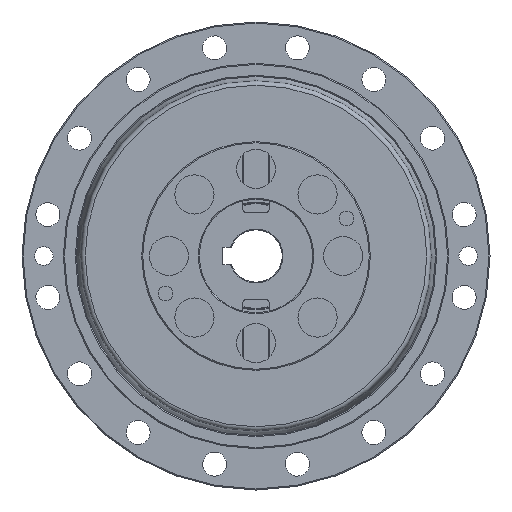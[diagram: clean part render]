
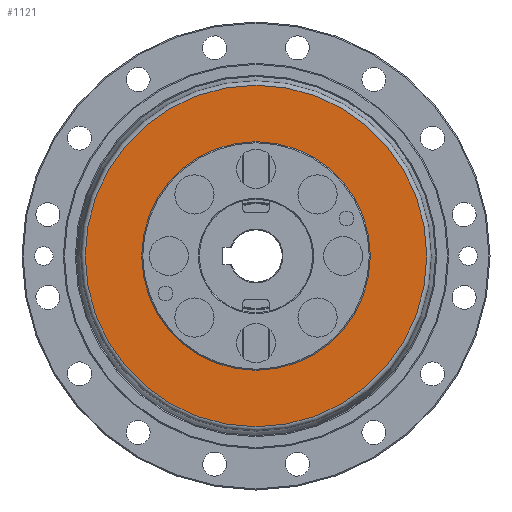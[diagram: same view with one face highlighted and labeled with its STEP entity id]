
A CAD part, left-side view. The second image highlights one B-rep face of the part: STEP entity #1121.
In plain terms, the highlighted planar face has unit normal (-1, 0, 0).
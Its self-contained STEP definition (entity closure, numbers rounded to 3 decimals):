
#760 = EDGE_CURVE ( 'NONE', #6574, #6574, #13398, .T. ) ;
#1121 = ADVANCED_FACE ( 'NONE', ( #12303, #11983 ), #6189, .T. ) ;
#1852 = CARTESIAN_POINT ( 'NONE',  ( 4.926, 8.163, -78.45 ) ) ;
#2045 = AXIS2_PLACEMENT_3D ( 'NONE', #2068, #9921, #3192 ) ;
#2068 = CARTESIAN_POINT ( 'NONE',  ( 4.926, 8.163, 0. ) ) ;
#3192 = DIRECTION ( 'NONE',  ( 0., 0., -1. ) ) ;
#3429 = DIRECTION ( 'NONE',  ( 0., 0., -1. ) ) ;
#4186 = CARTESIAN_POINT ( 'NONE',  ( 4.926, 8.163, 0. ) ) ;
#4229 = DIRECTION ( 'NONE',  ( 1., 0., 0. ) ) ;
#4373 = DIRECTION ( 'NONE',  ( -1., 0., 0. ) ) ;
#4474 = DIRECTION ( 'NONE',  ( 0., 0., 1. ) ) ;
#4642 = VERTEX_POINT ( 'NONE', #8869 ) ;
#4909 = ORIENTED_EDGE ( 'NONE', *, *, #760, .F. ) ;
#5826 = CARTESIAN_POINT ( 'NONE',  ( 4.926, 86.613, 0. ) ) ;
#5874 = AXIS2_PLACEMENT_3D ( 'NONE', #5826, #4373, #4474 ) ;
#6189 = PLANE ( 'NONE',  #5874 ) ;
#6574 = VERTEX_POINT ( 'NONE', #1852 ) ;
#7359 = CIRCLE ( 'NONE', #2045, 52.5 ) ;
#8206 = ORIENTED_EDGE ( 'NONE', *, *, #9594, .T. ) ;
#8869 = CARTESIAN_POINT ( 'NONE',  ( 4.926, 8.163, -52.5 ) ) ;
#9594 = EDGE_CURVE ( 'NONE', #4642, #4642, #7359, .T. ) ;
#9921 = DIRECTION ( 'NONE',  ( 1., 0., 0. ) ) ;
#11671 = EDGE_LOOP ( 'NONE', ( #8206 ) ) ;
#11695 = AXIS2_PLACEMENT_3D ( 'NONE', #4186, #4229, #3429 ) ;
#11983 = FACE_OUTER_BOUND ( 'NONE', #13352, .T. ) ;
#12303 = FACE_BOUND ( 'NONE', #11671, .T. ) ;
#13352 = EDGE_LOOP ( 'NONE', ( #4909 ) ) ;
#13398 = CIRCLE ( 'NONE', #11695, 78.45 ) ;
